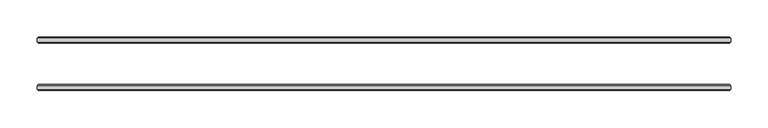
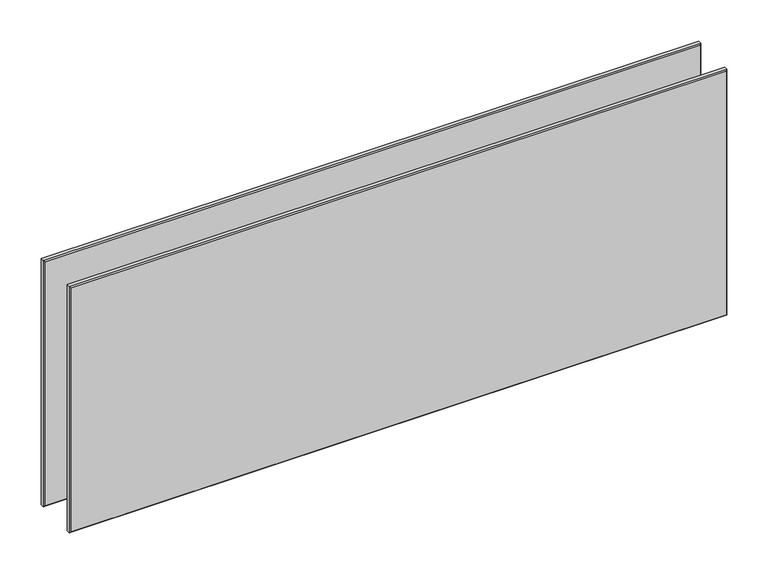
"""IFC4 building model written with IfcOpenShell, lengths in millimetres: plate geometry, 3-AMG-2-Панель двойной витраж 8, 10 : Смещение 32 Толщина 8mm."""

from ifc_helpers import new_model, si_unit, origin, place, context, project, spatial, faceted_brep, source, transform, mapped, element, save


def plate_d7c0e5d0(model_context):
    return source(origin(), model_context, "Body", "Brep", [
        faceted_brep([(465.7317324, -34.4961653, 361.9623438), (465.7317324, -29.5038347, 361.9623438), (-465.7317324, -29.5038347, 361.9623438), (-465.7317324, -34.4961653, 361.9623438), (465.7317324, -29.5038347, -7.0), (465.7317324, -34.4961653, -7.0), (-465.7317324, -34.4961653, -7.0), (-465.7317324, -29.5038347, -7.0), (-464.2278977, -28.0, 360.4585091), (464.2278977, -28.0, 360.4585091), (464.2278977, -28.0, -5.5039422), (-464.2278977, -28.0, -5.5039422), (464.2278977, -36.0, 360.4585091), (-464.2278977, -36.0, 360.4585091), (-464.2278977, -36.0, -5.4961653), (464.2278977, -36.0, -5.4961653)], [[[0, 1, 2, 3]], [[4, 5, 6, 7]], [[8, 9, 10, 11]], [[3, 2, 7, 6]], [[12, 13, 14, 15]], [[1, 0, 5, 4]], [[1, 4, 10, 9]], [[5, 0, 12, 15]], [[0, 3, 13, 12]], [[2, 1, 9, 8]], [[7, 2, 8, 11]], [[3, 6, 14, 13]], [[6, 5, 15, 14]], [[4, 7, 11, 10]]]),
        faceted_brep([(465.7317324, 29.5038347, 361.9623438), (465.7317324, 34.4961653, 361.9623438), (-465.7317324, 34.4961653, 361.9623438), (-465.7317324, 29.5038347, 361.9623438), (465.7317324, 34.4961653, -7.0), (465.7317324, 29.5038347, -7.0), (-465.7317324, 29.5038347, -7.0), (-465.7317324, 34.4961653, -7.0), (-464.2278977, 36.0, 360.4585091), (464.2278977, 36.0, 360.4585091), (464.2278977, 36.0, -5.5039422), (-464.2278977, 36.0, -5.5039422), (464.2278977, 28.0, 360.4585091), (-464.2278977, 28.0, 360.4585091), (-464.2278977, 28.0, -5.4961653), (464.2278977, 28.0, -5.4961653)], [[[0, 1, 2, 3]], [[4, 5, 6, 7]], [[8, 9, 10, 11]], [[3, 2, 7, 6]], [[12, 13, 14, 15]], [[1, 0, 5, 4]], [[1, 4, 10, 9]], [[5, 0, 12, 15]], [[7, 2, 8, 11]], [[3, 6, 14, 13]], [[0, 3, 13, 12]], [[2, 1, 9, 8]], [[6, 5, 15, 14]], [[4, 7, 11, 10]]]),
    ])


if __name__ == "__main__":
    model = new_model("IFC4")
    model_context = context("Model", 3, world=origin())
    ifc_project = project(units=[si_unit("LENGTHUNIT", "METRE", prefix="MILLI")], contexts=[model_context])
    site = spatial("IfcSite", under=ifc_project)
    building = spatial("IfcBuilding", under=site)
    placement = place(None, origin())
    plate_shape = plate_d7c0e5d0(model_context)
    element("IfcPlate", 1, ObjectType="3-AMG-2-Панель двойной витраж 8, 10 : Смещение 32 Толщина 8mm", at=placement, inside=building, context=model_context, shape_type="MappedRepresentation", body=[
        mapped(plate_shape, transform((0.0, 0.0, 0.0), x_axis=(1.0, 0.0, 0.0), y_axis=(0.0, 1.0, 0.0), z_axis=(0.0, 0.0, 1.0))),
    ])
    save(model, "model.ifc")
